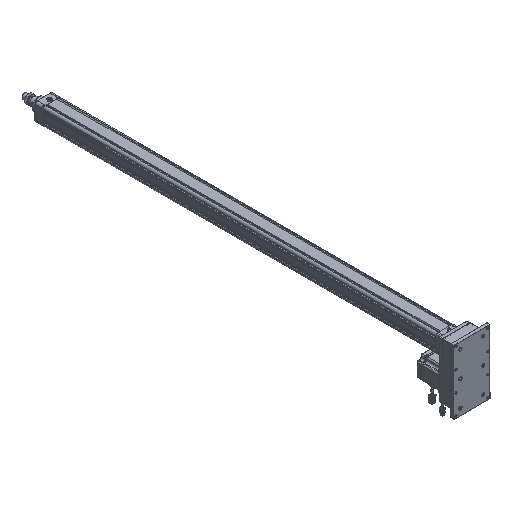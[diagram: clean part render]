
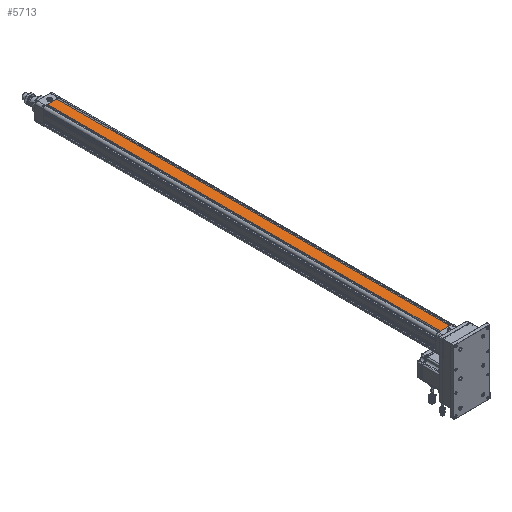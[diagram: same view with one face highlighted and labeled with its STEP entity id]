
A CAD part, isometric view. The second image highlights one B-rep face of the part: STEP entity #5713.
In plain terms, the highlighted planar face has unit normal (0, 0, 1).
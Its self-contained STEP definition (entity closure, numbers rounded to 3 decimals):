
#3172=DIRECTION('',(1.,0.,0.));
#3173=VECTOR('',#3172,34.);
#3174=CARTESIAN_POINT('',(-17.,-701.5,32.));
#3175=LINE('',#3174,#3173);
#3642=DIRECTION('',(1.,0.,0.));
#3643=VECTOR('',#3642,34.);
#3644=CARTESIAN_POINT('',(-17.,701.5,32.));
#3645=LINE('',#3644,#3643);
#3883=DIRECTION('',(0.,1.,0.));
#3884=VECTOR('',#3883,1403.);
#3885=CARTESIAN_POINT('',(17.,-701.5,32.));
#3886=LINE('',#3885,#3884);
#3887=DIRECTION('',(0.,1.,0.));
#3888=VECTOR('',#3887,1403.);
#3889=CARTESIAN_POINT('',(-17.,-701.5,32.));
#3890=LINE('',#3889,#3888);
#4599=CARTESIAN_POINT('',(17.,-701.5,32.));
#4600=VERTEX_POINT('',#4599);
#4601=CARTESIAN_POINT('',(-17.,-701.5,32.));
#4603=VERTEX_POINT('',#4601);
#4611=CARTESIAN_POINT('',(17.,701.5,32.));
#4612=VERTEX_POINT('',#4611);
#4613=CARTESIAN_POINT('',(-17.,701.5,32.));
#4615=VERTEX_POINT('',#4613);
#5700=CARTESIAN_POINT('',(-32.,-701.5,32.));
#5701=DIRECTION('',(0.,0.,1.));
#5702=DIRECTION('',(1.,0.,0.));
#5703=AXIS2_PLACEMENT_3D('',#5700,#5701,#5702);
#5704=PLANE('',#5703);
#5706=ORIENTED_EDGE('',*,*,#5705,.F.);
#5707=ORIENTED_EDGE('',*,*,#4970,.F.);
#5709=ORIENTED_EDGE('',*,*,#5708,.T.);
#5710=ORIENTED_EDGE('',*,*,#5331,.T.);
#5711=EDGE_LOOP('',(#5706,#5707,#5709,#5710));
#5712=FACE_OUTER_BOUND('',#5711,.F.);
#5713=ADVANCED_FACE('',(#5712),#5704,.T.);
#4970=EDGE_CURVE('',#4603,#4600,#3175,.T.);
#5331=EDGE_CURVE('',#4615,#4612,#3645,.T.);
#5705=EDGE_CURVE('',#4600,#4612,#3886,.T.);
#5708=EDGE_CURVE('',#4603,#4615,#3890,.T.);
